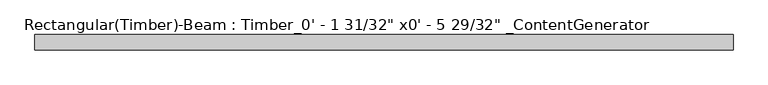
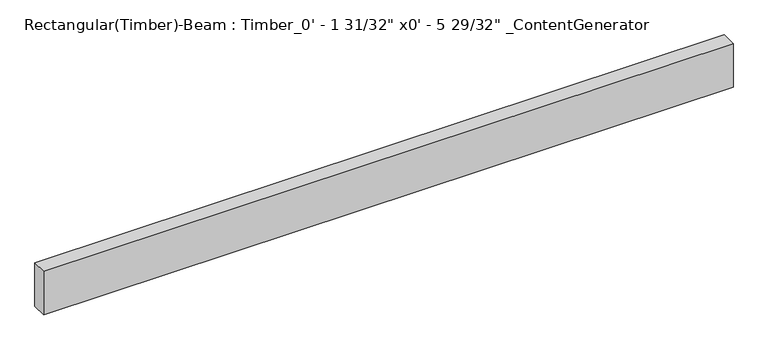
"""IFC4 building model written with IfcOpenShell, lengths in millimetres: beam geometry."""

from ifc_helpers import new_model, si_unit, frame, origin, place, context, project, spatial, polyline, outline, extrude, source, transform, mapped, element, save


def beam_558964e0(model_context):
    return source(origin(), model_context, "Body", "SweptSolid", [
        extrude(outline(polyline([(1143.0, 25.4), (1143.0, -25.4), (-1143.0, -25.4), (-1143.0, 25.4), (1143.0, 25.4)])), frame((0.0, 0.0, -76.2), z_axis=(0.0, 0.0, 1.0), x_axis=(1.0, 0.0, 0.0)), (0.0, 0.0, 1.0), 152.4),
    ])


if __name__ == "__main__":
    model = new_model("IFC4")
    model_context = context("Model", 3, world=origin())
    ifc_project = project(units=[si_unit("LENGTHUNIT", "METRE", prefix="MILLI")], contexts=[model_context])
    site = spatial("IfcSite", under=ifc_project)
    building = spatial("IfcBuilding", under=site)
    placement = place(None, origin())
    beam_shape = beam_558964e0(model_context)
    element("IfcBeam", 1, ObjectType="Rectangular(Timber)-Beam : Timber_0' - 1 31/32\" x0' - 5 29/32\" _ContentGenerator", at=placement, inside=building, context=model_context, shape_type="MappedRepresentation", body=[
        mapped(beam_shape, transform((0.0, 0.0, 0.0), x_axis=(1.0, 0.0, 0.0), y_axis=(0.0, 1.0, 0.0), z_axis=(0.0, 0.0, 1.0))),
    ])
    save(model, "model.ifc")
